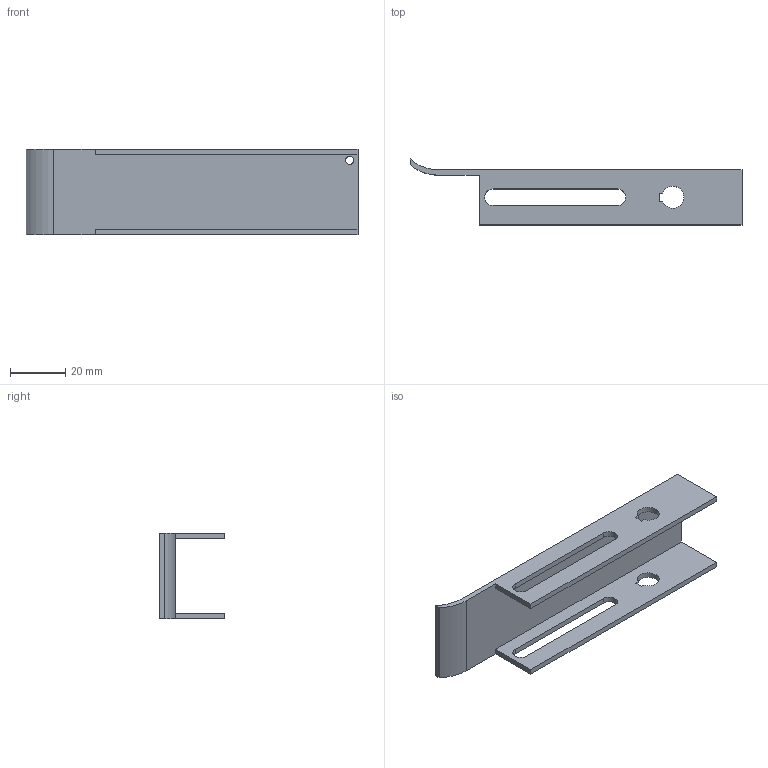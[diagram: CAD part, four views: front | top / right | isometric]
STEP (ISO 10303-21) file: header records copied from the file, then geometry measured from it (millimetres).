
FILE_DESCRIPTION (( 'STEP AP214' ), '1' );
FILE_NAME ('陔芧謫蟀裝.STEP', '2024-11-14T11:44:01', ( '' ), ( '' ), 'SwSTEP 2.0', 'SolidWorks 2021', '' );
FILE_SCHEMA (( 'AUTOMOTIVE_DESIGN' ));
Length unit declared in the file: millimetre
Products named in the file (1): 陔芧謫蟀裝
Bounding box: 120 x 23.82 x 31 mm (x, y, z)
Volume: 12859.7 mm3; surface area: 14230.4 mm2
Topology: 1 solids, 1 shells, 35 faces, 99 edges, 66 vertices
Faces by surface type: plane 22, cylinder 13
Entity records: 1193 total; most frequent: CARTESIAN_POINT 201, ORIENTED_EDGE 198, DIRECTION 197, EDGE_CURVE 99, VECTOR 73, LINE 73, VERTEX_POINT 66, AXIS2_PLACEMENT_3D 62
